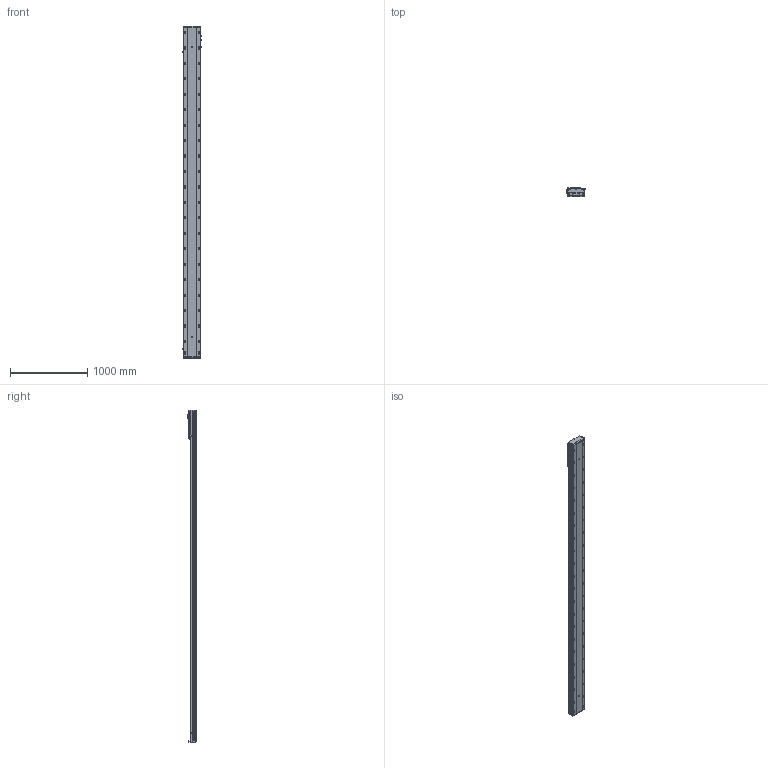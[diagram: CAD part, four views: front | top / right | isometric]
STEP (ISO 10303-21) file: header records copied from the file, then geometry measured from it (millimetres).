
FILE_DESCRIPTION (( 'STEP AP203' ), '1' );
FILE_NAME ('BEH22-A-M2-3850-L1-¦Õ22-PCD100-M6-C3.STEP', '2022-06-21T06:19:35', ( 'CXY' ), ( 'BT' ), 'SwSTEP 2.0', 'SolidWorks 2016', '' );
FILE_SCHEMA (( 'CONFIG_CONTROL_DESIGN' ));
Length unit declared in the file: millimetre
Products named in the file (12): BEH22-04-F; FS-01-10（10毫米）; BEH22-B-01-XX-2; BEH22-07-PCD100-80-M6; BEH22-04-01_L; PM-T65; FS-02-BTH22; FS-25-6.66-M2-H22K6; BEH22-A-M2-3850-L1-耳22-PCD100-M6-C3; 萇儂階踡輸; _G-M6; BTH22-07-DZ
Assembly tree (18 placements, depth 3):
  BEH22-A-M2-3850-L1-耳22-PCD100-M6-C3
    BEH22-B-01-XX-2
    BTH22-07-DZ  x2
    PM-T65  x2
    BEH22-04-01_L
      BEH22-04-F
      萇儂階踡輸
      _G-M6  x3
      FS-02-BTH22
      FS-01-10（10毫米）  x4
      BEH22-07-PCD100-80-M6
      FS-25-6.66-M2-H22K6
Bounding box: 247.7 x 111 x 4298 mm (x, y, z)
Volume: 44190613 mm3; surface area: 4285480.4 mm2
Topology: 21 solids, 21 shells, 2652 faces, 7888 edges, 5138 vertices
Faces by surface type: cylinder 1408, plane 952, cone 233, bspline 37, torus 22
Entity records: 480088 total; most frequent: CARTESIAN_POINT 419279, ORIENTED_EDGE 13596, DIRECTION 11250, EDGE_CURVE 6798, VERTEX_POINT 4498, AXIS2_PLACEMENT_3D 4096, VECTOR 3058, LINE 3058
